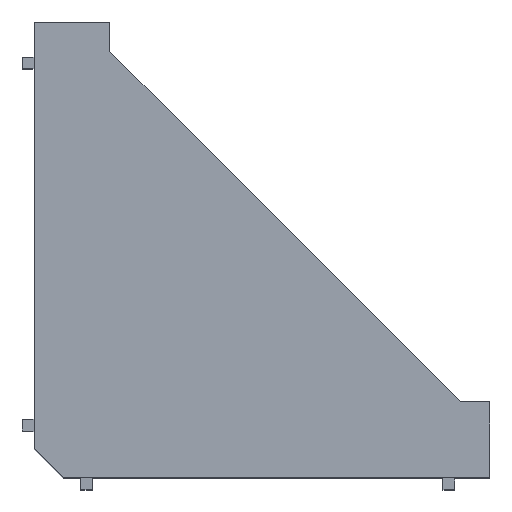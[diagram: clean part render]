
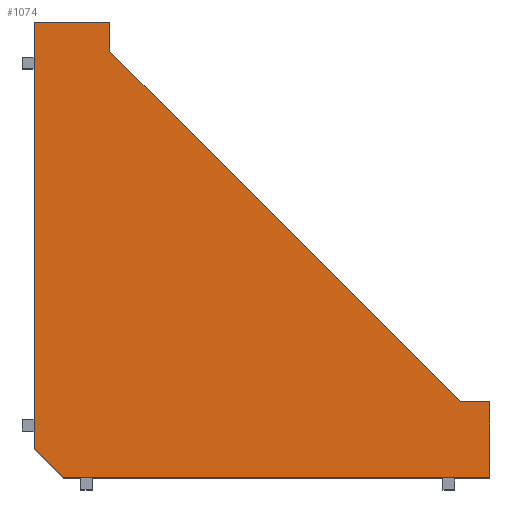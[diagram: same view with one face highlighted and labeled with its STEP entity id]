
A CAD part, top view. The second image highlights one B-rep face of the part: STEP entity #1074.
In plain terms, the highlighted planar face has unit normal (0, 0, 1).
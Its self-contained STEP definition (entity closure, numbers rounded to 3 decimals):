
#1 = VERTEX_POINT ( 'NONE', #684 ) ;
#86 = ORIENTED_EDGE ( 'NONE', *, *, #2083, .T. ) ;
#103 = CARTESIAN_POINT ( 'NONE',  ( 73., 13., 39. ) ) ;
#157 = DIRECTION ( 'NONE',  ( 0.707, -0.707, 0. ) ) ;
#267 = EDGE_LOOP ( 'NONE', ( #662, #707, #1957, #852, #86, #2123, #1927, #3713 ) ) ;
#273 = DIRECTION ( 'NONE',  ( -1., 0., 0. ) ) ;
#371 = EDGE_CURVE ( 'NONE', #1084, #1899, #2478, .T. ) ;
#381 = VECTOR ( 'NONE', #3631, 1000. ) ;
#549 = CARTESIAN_POINT ( 'NONE',  ( 5., 0., 39. ) ) ;
#597 = CARTESIAN_POINT ( 'NONE',  ( 5., 0., 39. ) ) ;
#662 = ORIENTED_EDGE ( 'NONE', *, *, #1805, .T. ) ;
#684 = CARTESIAN_POINT ( 'NONE',  ( 78., 0., 39. ) ) ;
#693 = VERTEX_POINT ( 'NONE', #1988 ) ;
#707 = ORIENTED_EDGE ( 'NONE', *, *, #2305, .T. ) ;
#721 = DIRECTION ( 'NONE',  ( 0., 0., -1. ) ) ;
#727 = LINE ( 'NONE', #4038, #381 ) ;
#852 = ORIENTED_EDGE ( 'NONE', *, *, #3212, .T. ) ;
#1018 = EDGE_CURVE ( 'NONE', #3459, #1, #2643, .T. ) ;
#1041 = LINE ( 'NONE', #597, #3497 ) ;
#1074 = ADVANCED_FACE ( 'NONE', ( #2705 ), #1613, .F. ) ;
#1084 = VERTEX_POINT ( 'NONE', #4030 ) ;
#1165 = CARTESIAN_POINT ( 'NONE',  ( 0., 78., 39. ) ) ;
#1295 = EDGE_CURVE ( 'NONE', #3862, #3774, #4177, .T. ) ;
#1299 = CARTESIAN_POINT ( 'NONE',  ( 78., 13., 39. ) ) ;
#1334 = CARTESIAN_POINT ( 'NONE',  ( 13., 78., 39. ) ) ;
#1539 = VECTOR ( 'NONE', #3875, 1000. ) ;
#1568 = DIRECTION ( 'NONE',  ( -0.707, 0.707, 0. ) ) ;
#1584 = VECTOR ( 'NONE', #1751, 1000. ) ;
#1613 = PLANE ( 'NONE',  #2806 ) ;
#1668 = DIRECTION ( 'NONE',  ( -1., 0., 0. ) ) ;
#1751 = DIRECTION ( 'NONE',  ( 1., 0., 0. ) ) ;
#1805 = EDGE_CURVE ( 'NONE', #3774, #693, #2703, .T. ) ;
#1826 = DIRECTION ( 'NONE',  ( 0., -1., 0. ) ) ;
#1899 = VERTEX_POINT ( 'NONE', #3925 ) ;
#1927 = ORIENTED_EDGE ( 'NONE', *, *, #4101, .T. ) ;
#1957 = ORIENTED_EDGE ( 'NONE', *, *, #1018, .T. ) ;
#1988 = CARTESIAN_POINT ( 'NONE',  ( 0., 5., 39. ) ) ;
#2018 = CARTESIAN_POINT ( 'NONE',  ( 13., 73., 39. ) ) ;
#2083 = EDGE_CURVE ( 'NONE', #3748, #1084, #2349, .T. ) ;
#2118 = CARTESIAN_POINT ( 'NONE',  ( 0., 78., 39. ) ) ;
#2123 = ORIENTED_EDGE ( 'NONE', *, *, #371, .T. ) ;
#2208 = CARTESIAN_POINT ( 'NONE',  ( 78., 0., 39. ) ) ;
#2270 = CARTESIAN_POINT ( 'NONE',  ( 0., 0., 39. ) ) ;
#2305 = EDGE_CURVE ( 'NONE', #693, #3459, #1041, .T. ) ;
#2349 = LINE ( 'NONE', #103, #1539 ) ;
#2478 = LINE ( 'NONE', #2018, #4111 ) ;
#2643 = LINE ( 'NONE', #2208, #1584 ) ;
#2652 = VECTOR ( 'NONE', #2700, 1000. ) ;
#2700 = DIRECTION ( 'NONE',  ( 0., 1., 0. ) ) ;
#2703 = LINE ( 'NONE', #2270, #2896 ) ;
#2705 = FACE_OUTER_BOUND ( 'NONE', #267, .T. ) ;
#2728 = VECTOR ( 'NONE', #1668, 1000. ) ;
#2806 = AXIS2_PLACEMENT_3D ( 'NONE', #1165, #721, #273 ) ;
#2896 = VECTOR ( 'NONE', #1826, 1000. ) ;
#3096 = CARTESIAN_POINT ( 'NONE',  ( 78., 7., 39. ) ) ;
#3212 = EDGE_CURVE ( 'NONE', #1, #3748, #3493, .T. ) ;
#3459 = VERTEX_POINT ( 'NONE', #549 ) ;
#3493 = LINE ( 'NONE', #3096, #2652 ) ;
#3497 = VECTOR ( 'NONE', #157, 1000. ) ;
#3631 = DIRECTION ( 'NONE',  ( 0., 1., 0. ) ) ;
#3713 = ORIENTED_EDGE ( 'NONE', *, *, #1295, .T. ) ;
#3748 = VERTEX_POINT ( 'NONE', #1299 ) ;
#3774 = VERTEX_POINT ( 'NONE', #3853 ) ;
#3853 = CARTESIAN_POINT ( 'NONE',  ( 0., 78., 39. ) ) ;
#3862 = VERTEX_POINT ( 'NONE', #1334 ) ;
#3875 = DIRECTION ( 'NONE',  ( -1., 0., 0. ) ) ;
#3925 = CARTESIAN_POINT ( 'NONE',  ( 13., 73., 39. ) ) ;
#4030 = CARTESIAN_POINT ( 'NONE',  ( 73., 13., 39. ) ) ;
#4038 = CARTESIAN_POINT ( 'NONE',  ( 13., 78., 39. ) ) ;
#4101 = EDGE_CURVE ( 'NONE', #1899, #3862, #727, .T. ) ;
#4111 = VECTOR ( 'NONE', #1568, 1000. ) ;
#4177 = LINE ( 'NONE', #2118, #2728 ) ;
